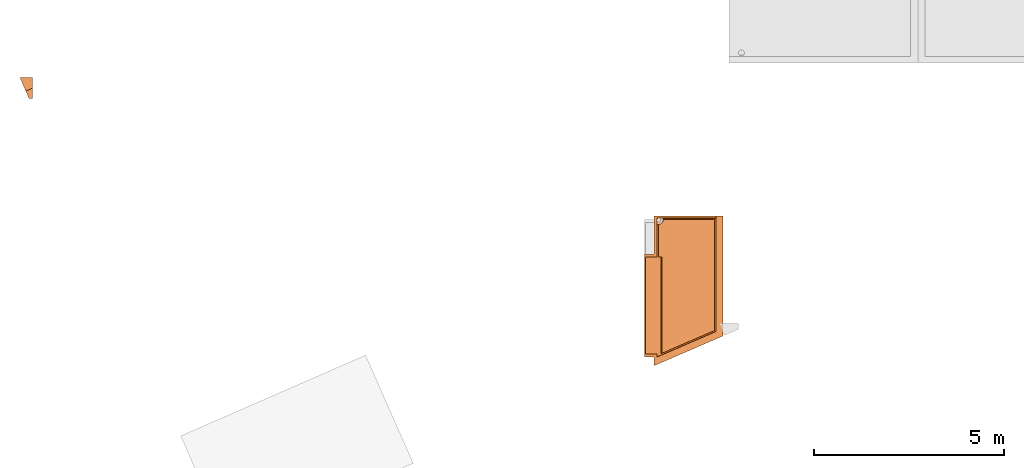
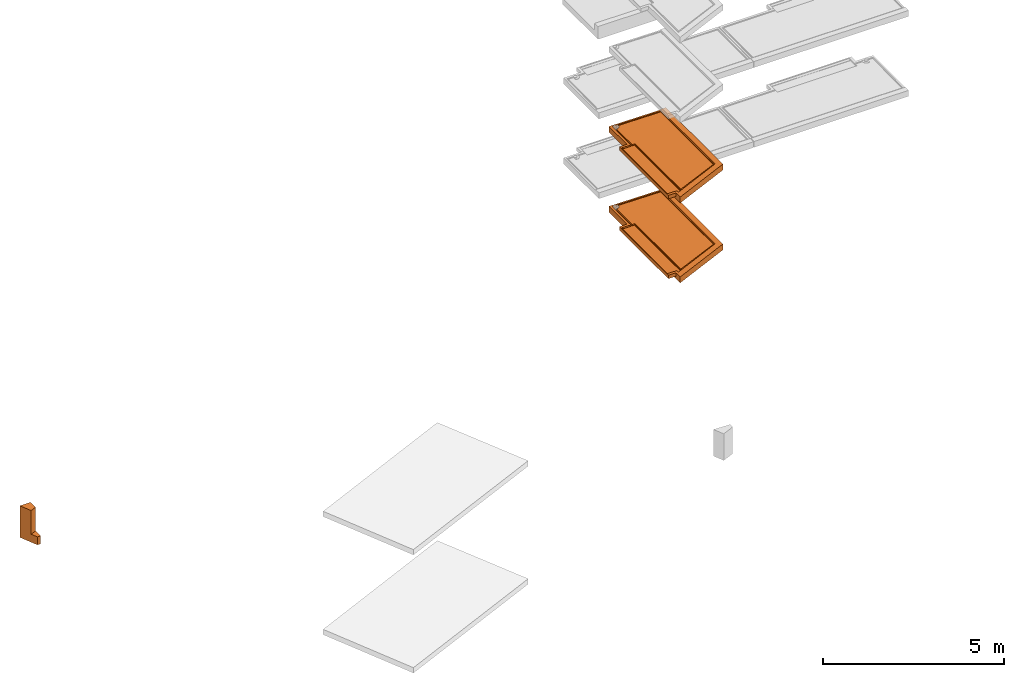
# One storey, part 4 of 31: 3 proxies, 2 elements without a shape of their own.
"""IFC2X3 building model written with IfcOpenShell, lengths in centimetres."""

import ifcopenshell
import ifcopenshell.guid

model = None  # the IFC model being written
_history = None  # IfcOwnerHistory: only IFC2X3 demands one
_inside = {}  # id of a spatial element -> (the spatial element, [elements in it])
_under = {}  # id of a project, library or spatial element -> (it, [spatial elements below it])
_declared = {}  # id of a project -> (the project, [libraries it declares])
_typed = {}  # id of a type object -> (the type object, [elements of that type])
_made_of = {}  # id of a material, layer set ... -> (it, [elements and type objects made of it])


def new_model(schema):
    """Start an empty IFC model of exactly this schema.

    Asked for "IFC4X3", IfcOpenShell would pick the latest addendum, in which some entities
    have other attributes; the version numbers below select the first issue.
    IFC2X3 requires an IfcOwnerHistory on every rooted entity: one is made here for all.
    """
    global model, _history
    if schema == "IFC4X3":
        model = ifcopenshell.file(schema_version=(4, 3, 0, 0))
    else:
        model = ifcopenshell.file(schema=schema)
    _inside.clear()
    _under.clear()
    _declared.clear()
    _typed.clear()
    _made_of.clear()
    _history = None
    if model.schema == "IFC2X3":
        org = make("IfcOrganization", Name="unknown")
        user = make(
            "IfcPersonAndOrganization",
            ThePerson=make("IfcPerson", FamilyName="unknown"),
            TheOrganization=org,
        )
        app = make(
            "IfcApplication",
            ApplicationDeveloper=org,
            Version="unknown",
            ApplicationFullName="unknown",
            ApplicationIdentifier="unknown",
        )
        _history = make(
            "IfcOwnerHistory",
            OwningUser=user,
            OwningApplication=app,
            ChangeAction="ADDED",
            CreationDate=0,
        )
    return model


def make(cls, **values):
    """One entity of the class cls with the attributes given. An attribute that is None is left unset."""
    return model.create_entity(
        cls, **{name: value for name, value in values.items() if value is not None}
    )


def entity(cls, *values):
    """Any entity or typed value of the class cls, its attributes in the order of the schema. None: left unset."""
    e = model.create_entity(cls)
    for i, value in enumerate(values):
        if value is not None:
            e[i] = value
    return e


def rooted(cls, **values):
    """An entity with a GlobalId (a new one), such as an element, a storey or a relation."""
    return make(cls, GlobalId=ifcopenshell.guid.new(), OwnerHistory=_history, **values)


def si_unit(unit_type, name, prefix=None):
    """IfcSIUnit, for example si_unit("LENGTHUNIT", "METRE", prefix="MILLI")."""
    return make("IfcSIUnit", UnitType=unit_type, Prefix=prefix, Name=name)


def converted_unit(unit_type, name, factor, base, dimensions=None, offset=None):
    """IfcConversionBasedUnit, such as the inch: factor (a typed value) times the base unit."""
    return make(
        "IfcConversionBasedUnit"
        if offset is None
        else "IfcConversionBasedUnitWithOffset",
        ConversionOffset=offset,
        Dimensions=None
        if dimensions is None
        else entity("IfcDimensionalExponents", *dimensions),
        UnitType=unit_type,
        Name=name,
        ConversionFactor=make(
            "IfcMeasureWithUnit", ValueComponent=factor, UnitComponent=base
        ),
    )


def derived_unit(unit_type, elements):
    """IfcDerivedUnit: a product of units, each with its exponent."""
    return make(
        "IfcDerivedUnit",
        Elements=[
            make("IfcDerivedUnitElement", Unit=unit, Exponent=power)
            for unit, power in elements
        ],
        UnitType=unit_type,
    )


def assignment(units):
    """IfcUnitAssignment: the units of a project."""
    return None if units is None else make("IfcUnitAssignment", Units=units)


def point(xyz):
    """IfcCartesianPoint."""
    return None if xyz is None else make("IfcCartesianPoint", Coordinates=xyz)


def direction(xyz):
    """IfcDirection."""
    return None if xyz is None else make("IfcDirection", DirectionRatios=xyz)


def frame(location, z_axis=None, x_axis=None):
    """IfcAxis2Placement3D, a coordinate frame: its origin and axes. An axis left out is left unset."""
    return make(
        "IfcAxis2Placement3D",
        Location=point(location),
        Axis=direction(z_axis),
        RefDirection=direction(x_axis),
    )


def origin():
    """The frame at (0, 0, 0) with its axes left unset."""
    return frame((0.0, 0.0, 0.0))


def place(relative_to, where):
    """IfcLocalPlacement: puts the frame where relative to a parent placement (None: the world)."""
    return make(
        "IfcLocalPlacement", PlacementRelTo=relative_to, RelativePlacement=where
    )


def context(
    kind, dimensions, precision=None, world=None, true_north=None, identifier=None
):
    """IfcGeometricRepresentationContext, for example the 3D "Model" context."""
    return make(
        "IfcGeometricRepresentationContext",
        ContextIdentifier=identifier,
        ContextType=kind,
        CoordinateSpaceDimension=dimensions,
        Precision=precision,
        WorldCoordinateSystem=world,
        TrueNorth=true_north,
    )


def subcontext(parent, identifier, kind, view, scale=None):
    """IfcGeometricRepresentationSubContext, for example "Body" below "Model"."""
    return make(
        "IfcGeometricRepresentationSubContext",
        ContextIdentifier=identifier,
        ContextType=kind,
        ParentContext=parent,
        TargetScale=scale,
        TargetView=view,
    )


def project(units=None, contexts=None):
    """IfcProject with its units and contexts."""
    return rooted(
        "IfcProject",
        Name="project",
        RepresentationContexts=contexts,
        UnitsInContext=assignment(units),
    )


def spatial(cls, under=None, at=None, **own):
    """A site, building, storey or space (cls), placed at a placement, below another one or the project."""
    s = rooted(cls, ObjectPlacement=at, **own)
    if under is not None:
        _under.setdefault(under.id(), (under, []))[1].append(s)
    return s


def faces_of(points, faces, orient=None, outer=None):
    """IfcFace entities. A face is a list of loops; a loop is a list of indices into points, from 0.

    orient and outer hold one flag for each loop. By default every Orientation is true, the
    first loop of a face is its IfcFaceOuterBound and the others are IfcFaceBound.
    """
    made = []
    for i, loops in enumerate(faces):
        bounds = []
        for j, loop in enumerate(loops):
            is_outer = j == 0 if outer is None else outer[i][j]
            bounds.append(
                make(
                    "IfcFaceOuterBound" if is_outer else "IfcFaceBound",
                    Bound=make("IfcPolyLoop", Polygon=[points[k] for k in loop]),
                    Orientation=True if orient is None else orient[i][j],
                )
            )
        made.append(make("IfcFace", Bounds=bounds))
    return made


def faceted_brep(points, faces, orient=None, outer=None, voids=None):
    """IfcFacetedBrep: a solid bounded by flat faces; with voids (closed shells), ...WithVoids."""
    shared = [point(p) for p in points]
    hull = make("IfcClosedShell", CfsFaces=faces_of(shared, faces, orient, outer))
    if voids is None:
        return make("IfcFacetedBrep", Outer=hull)
    return make(
        "IfcFacetedBrepWithVoids",
        Outer=hull,
        Voids=[
            make(cls, CfsFaces=faces_of(shared, fs, o, b)) for cls, fs, o, b in voids
        ],
    )


def shape(context_of_items, identifier, shape_type, items):
    """IfcShapeRepresentation: the items that make up one representation, for example the "Body"."""
    return make(
        "IfcShapeRepresentation",
        ContextOfItems=context_of_items,
        RepresentationIdentifier=identifier,
        RepresentationType=shape_type,
        Items=items,
    )


def source(mapping_origin, context_of_items, identifier, shape_type, items):
    """IfcRepresentationMap: a shape defined once, which mapped items show again and again."""
    return make(
        "IfcRepresentationMap",
        MappingOrigin=mapping_origin,
        MappedRepresentation=shape(context_of_items, identifier, shape_type, items),
    )


def transform(
    local_origin,
    x_axis=None,
    y_axis=None,
    z_axis=None,
    scale=None,
    scale2=None,
    scale3=None,
    uniform=True,
):
    """IfcCartesianTransformationOperator3D, or its non-uniform kind. x_axis, y_axis, z_axis: its Axis1, 2, 3."""
    if uniform:
        return make(
            "IfcCartesianTransformationOperator3D",
            Axis1=direction(x_axis),
            Axis2=direction(y_axis),
            LocalOrigin=point(local_origin),
            Scale=scale,
            Axis3=direction(z_axis),
        )
    return make(
        "IfcCartesianTransformationOperator3DnonUniform",
        Axis1=direction(x_axis),
        Axis2=direction(y_axis),
        LocalOrigin=point(local_origin),
        Scale=scale,
        Axis3=direction(z_axis),
        Scale2=scale2,
        Scale3=scale3,
    )


def mapped(mapping_source, mapping_target):
    """IfcMappedItem: shows the shape of a source again, moved by a transform."""
    return make(
        "IfcMappedItem", MappingSource=mapping_source, MappingTarget=mapping_target
    )


def material(Name=None, Category=None):
    """IfcMaterial."""
    return make("IfcMaterial", Name=Name, Category=Category)


def made_of(thing, what):
    """Note that an element or type object is made of a material, layer set ...; save() writes the relation."""
    if what is not None:
        _made_of.setdefault(what.id(), (what, []))[1].append(thing)
    return thing


def type_object(cls, material=None, **own):
    """A type object (cls), such as IfcWallType, which elements share."""
    return made_of(rooted(cls, **own), material)


def type_shapes(of_type, sources):
    """Give a type object the sources (RepresentationMaps) that its elements show as mapped items."""
    of_type.RepresentationMaps = sources


def element(
    cls,
    number,
    at=None,
    inside=None,
    cuts=None,
    type_object=None,
    material=None,
    context=None,
    identifier="Body",
    shape_type=None,
    held_by="IfcProductDefinitionShape",
    body=None,
    shapes=None,
    **own,
):
    """One element of the class cls, such as IfcWall. Its Tag is "e" and its number.

    at: its placement. inside: the storey or other place that contains it. cuts: it is an
    opening in that element (IfcRelVoidsElement). A single representation is given by context,
    identifier, shape_type and body (its items); several are given by shapes. held_by: the class
    of the entity that holds the representations. save() writes the other relations.
    """
    e = rooted(cls, Tag="e%d" % number, ObjectPlacement=at, **own)
    if body is not None:
        shapes = [shape(context, identifier, shape_type, body)]
    if shapes is not None:
        e.Representation = make(held_by, Representations=shapes)
    if inside is not None:
        _inside.setdefault(inside.id(), (inside, []))[1].append(e)
    if cuts is not None:
        rooted(
            "IfcRelVoidsElement", RelatingBuildingElement=cuts, RelatedOpeningElement=e
        )
    if type_object is not None:
        _typed.setdefault(type_object.id(), (type_object, []))[1].append(e)
    return made_of(e, material)


def aggregate(whole, parts):
    """IfcRelAggregates: a whole, such as a stair, and the parts it consists of."""
    return rooted("IfcRelAggregates", RelatingObject=whole, RelatedObjects=parts)


def save(model, path):
    """Write the relations noted so far, then the file.

    IfcRelAggregates (storeys below a building ...), IfcRelContainedInSpatialStructure (elements
    in a storey), IfcRelDefinesByType, IfcRelAssociatesMaterial and IfcRelDeclares: one each for
    every whole, place, type object, material and project.
    """
    for whole, parts in _under.values():
        aggregate(whole, parts)
    for where, things in _inside.values():
        rooted(
            "IfcRelContainedInSpatialStructure",
            RelatedElements=things,
            RelatingStructure=where,
        )
    for kind, things in _typed.values():
        rooted("IfcRelDefinesByType", RelatedObjects=things, RelatingType=kind)
    for what, things in _made_of.values():
        rooted("IfcRelAssociatesMaterial", RelatedObjects=things, RelatingMaterial=what)
    for by, libraries in _declared.values():
        rooted("IfcRelDeclares", RelatingContext=by, RelatedDefinitions=libraries)
    model.write(path)


model = new_model("IFC2X3")

# Units and contexts
model_context = context("Model", 3, precision=0.001, world=origin(), true_north=direction((6.12303176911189e-17, 1.0)))
body_context = subcontext(model_context, "Body", "Model", "MODEL_VIEW")
ifc_project = project(units=[si_unit("LENGTHUNIT", "METRE", prefix="CENTI"), si_unit("AREAUNIT", "SQUARE_METRE"), si_unit("VOLUMEUNIT", "CUBIC_METRE"), converted_unit("PLANEANGLEUNIT", "DEGREE", entity("IfcRatioMeasure", 0.0174532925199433), si_unit("PLANEANGLEUNIT", "RADIAN"), dimensions=[0, 0, 0, 0, 0, 0, 0]), si_unit("MASSUNIT", "GRAM", prefix="KILO"), derived_unit("MASSDENSITYUNIT", [(si_unit("MASSUNIT", "GRAM", prefix="KILO"), 1), (si_unit("LENGTHUNIT", "METRE"), -3)]), si_unit("TIMEUNIT", "SECOND"), si_unit("FREQUENCYUNIT", "HERTZ"), si_unit("THERMODYNAMICTEMPERATUREUNIT", "DEGREE_CELSIUS"), derived_unit("THERMALTRANSMITTANCEUNIT", [(si_unit("MASSUNIT", "GRAM", prefix="KILO"), 1), (si_unit("THERMODYNAMICTEMPERATUREUNIT", "KELVIN"), -1), (si_unit("TIMEUNIT", "SECOND"), -3)]), derived_unit("VOLUMETRICFLOWRATEUNIT", [(si_unit("LENGTHUNIT", "METRE"), 3), (si_unit("TIMEUNIT", "SECOND"), -1)]), si_unit("ELECTRICCURRENTUNIT", "AMPERE"), si_unit("ELECTRICVOLTAGEUNIT", "VOLT"), si_unit("POWERUNIT", "WATT"), si_unit("FORCEUNIT", "NEWTON"), si_unit("ILLUMINANCEUNIT", "LUX"), si_unit("LUMINOUSFLUXUNIT", "LUMEN"), si_unit("LUMINOUSINTENSITYUNIT", "CANDELA"), derived_unit("USERDEFINED", [(si_unit("MASSUNIT", "GRAM", prefix="KILO"), -1), (si_unit("LENGTHUNIT", "METRE"), -2), (si_unit("TIMEUNIT", "SECOND"), 3), (si_unit("LUMINOUSFLUXUNIT", "LUMEN"), 1)]), derived_unit("LINEARVELOCITYUNIT", [(si_unit("LENGTHUNIT", "METRE"), 1), (si_unit("TIMEUNIT", "SECOND"), -1)]), si_unit("PRESSUREUNIT", "PASCAL"), derived_unit("USERDEFINED", [(si_unit("LENGTHUNIT", "METRE"), -2), (si_unit("MASSUNIT", "GRAM", prefix="KILO"), 1), (si_unit("TIMEUNIT", "SECOND"), -2)])], contexts=[model_context])

# Site, building, storey
site_placement = place(None, origin())
site = spatial("IfcSite", under=ifc_project, at=site_placement, Name="Default", CompositionType="ELEMENT")
building_placement = place(site_placement, origin())
building = spatial("IfcBuilding", under=site, at=building_placement, Name="CAGE 03", CompositionType="ELEMENT")
storey_placement = place(building_placement, frame((0.0, 0.0, -400.0)))
storey = spatial("IfcBuildingStorey", under=building, at=storey_placement, Name="±0.00", CompositionType="ELEMENT", Elevation=-400.0)

# Proxy
ifc_material_1 = material(Name="Béton, C25/30")
building_element_proxy_type_1 = type_object("IfcBuildingElementProxyType", Name="Lg34C", PredefinedType="NOTDEFINED", material=ifc_material_1)
shared_shape_1 = source(origin(), body_context, "Body", "Brep", [
    faceted_brep([(33.6040107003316, 55.0, 107.0), (19.6127002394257, 55.0, 107.0), (0.0, 55.0, 107.0), (15.3352663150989, 19.5578755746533, 107.0), (31.8551741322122, 26.7057875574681, 107.0), (33.6040107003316, 27.462482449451, 107.0), (0.0, 55.0, 0.0), (33.6040107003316, 55.0, 0.0), (33.6040107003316, 0.0, 0.0), (23.7976605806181, 0.0, 0.0), (23.7976605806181, 0.0, 27.0), (15.3352663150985, 19.5578755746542, 27.0), (0.0, 55.0, 27.0), (33.6040107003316, 0.0, 27.0), (33.6040107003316, 55.0, 27.0), (33.6040107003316, 55.0, 87.0), (33.6040107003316, 27.4624824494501, 87.0), (33.6040107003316, 27.4624824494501, 27.0)], [[[0, 1, 2, 3, 4, 5]], [[6, 7, 8, 9]], [[6, 9, 10, 11, 3, 2, 12]], [[9, 8, 13, 10]], [[8, 7, 14, 15, 0, 5, 16, 17, 13]], [[2, 1, 0, 15, 14, 7, 6, 12]], [[17, 11, 10, 13]], [[11, 17, 16, 5, 4, 3]]]),
])
type_shapes(building_element_proxy_type_1, [shared_shape_1])
proxy_1_placement = place(storey_placement, frame((3006.74025360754, 4381.66066607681, 254.0)))
element("IfcBuildingElementProxy", 1, at=proxy_1_placement, inside=storey, type_object=building_element_proxy_type_1, material=ifc_material_1, Name="Lg34C:Lg34C", ObjectType="Lg34C", context=body_context, shape_type="MappedRepresentation", body=[
    mapped(shared_shape_1, transform((0.0, 0.0, 0.0), scale=1.0)),
])

# Assembly, proxy
assembly_1_placement = place(storey_placement, origin())
assembly_1 = element("IfcElementAssembly", 2, at=assembly_1_placement, inside=storey, Name="Assemblage Modèles génériques:BALCON TYPE 06", ObjectType="Assemblage Modèles génériques:BALCON TYPE 06", AssemblyPlace="NOTDEFINED", PredefinedType="USERDEFINED")
ifc_material_2 = material(Name="Béton, panneaux préfa 30/37")
building_element_proxy_type_2 = type_object("IfcBuildingElementProxyType", Name="balcon préfa type 06", PredefinedType="NOTDEFINED", material=ifc_material_2)
shared_shape_2 = source(origin(), body_context, "Body", "Brep", [
    faceted_brep([(2.0, 31.6000000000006, 20.0), (2.0, 31.6000000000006, 17.4999999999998), (2.0, 286.600000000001, 17.4999999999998), (2.0, 286.600000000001, 20.0), (0.0, 23.6000000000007, 8.0), (0.0, 23.6000000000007, 20.0), (0.0, 294.600000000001, 20.0), (0.0, 294.600000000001, 8.0), (8.0, 23.6000000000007, 8.0), (8.0, 294.600000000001, 8.0), (24.0, 294.600000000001, 8.0), (24.0, 23.6000000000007, 8.0), (24.0, 0.0, 0.0), (24.0, 3.26884759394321, 0.0), (26.0, 4.13432487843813, 0.0), (203.0, 80.7290645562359, 0.0), (203.0, 391.6, 0.0), (26.0, 391.6, 0.0), (24.0, 391.6, 0.0), (24.0, 394.6, 0.0), (26.0, 394.6, 0.0), (206.0, 394.6, 0.0), (206.0, 78.7584328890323, 0.0), (26.0, 0.865477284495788, 0.0), (26.0, 5.22394074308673, 0.0), (34.5000000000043, 380.269872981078, 0.0), (35.7059047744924, 379.770370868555, 0.0), (24.0, 4.35846345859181, 0.0), (37.0, 379.6, 0.0), (202.0, 81.3859417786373, 0.0), (33.4644660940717, 381.064466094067, 0.0), (24.0, 390.6, 0.0), (32.6698729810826, 382.100000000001, 0.0), (32.1703708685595, 383.305904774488, 0.0), (32.0, 384.6, 0.0), (26.0, 390.6, 0.0), (32.1703708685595, 385.894095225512, 0.0), (32.6698729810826, 387.1, 0.0), (33.4644660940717, 388.135533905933, 0.0), (34.5000000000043, 388.930127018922, 0.0), (35.7059047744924, 389.429629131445, 0.0), (37.0, 389.6, 0.0), (202.0, 390.6, 0.0), (39.500000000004, 380.269872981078, 0.0), (40.5355339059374, 381.064466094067, 0.0), (41.3301270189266, 382.1, 0.0), (41.8296291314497, 383.305904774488, 0.0), (42.0, 384.6, 0.0), (38.2940952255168, 389.429629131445, 0.0), (39.500000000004, 388.930127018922, 0.0), (40.5355339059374, 388.135533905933, 0.0), (41.3301270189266, 387.1, 0.0), (41.8296291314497, 385.894095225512, 0.0), (38.2940952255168, 379.770370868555, 0.0), (206.0, 78.7584328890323, 20.0), (206.0, 394.6, 20.0), (188.0, 394.6, 20.0), (187.822534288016, 394.6, 17.9715576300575), (187.822534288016, 389.422534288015, 17.9715576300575), (187.562556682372, 389.162556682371, 15.0), (187.562556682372, 90.8695694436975, 15.0), (188.0, 90.5822228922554, 20.0), (24.0, 31.6000000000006, 20.0), (24.0, 31.6000000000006, 19.6099582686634), (32.0411600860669, 31.6000000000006, 19.5295380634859), (32.4374433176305, 31.6000000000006, 15.0), (9.0, 31.6000000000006, 15.0), (9.0, 31.6000000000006, 15.9713250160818), (44.9990594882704, 33.0586535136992, 16.8998201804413), (45.0240609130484, 33.0694725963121, 19.3996951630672), (45.0240609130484, 286.600000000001, 19.3996951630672), (44.9990594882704, 286.600000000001, 16.8998201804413), (43.0, 32.1935832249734, 16.9198129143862), (43.0, 286.600000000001, 16.9198129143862), (24.0, 394.6, 19.6099582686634), (26.0, 394.6, 19.5899561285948), (32.4374433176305, 23.7409385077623, 15.0), (32.0411600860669, 23.1376549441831, 19.5295380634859), (26.0, 20.517651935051, 19.5899561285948), (24.0, 19.65026786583, 19.6099582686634), (24.0, 19.6130855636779, 20.0), (26.0, 20.4785628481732, 20.0), (184.0, 93.2097317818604, 15.0), (184.0, 385.6, 15.0), (184.0, 385.6, 18.0097870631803), (184.0, 93.2097317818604, 18.0097870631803), (203.0, 80.7290645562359, 1.0), (203.0, 391.6, 1.0), (43.0, 32.1935832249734, 15.0), (43.0, 286.600000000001, 15.0), (48.4564392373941, 385.6, 15.0), (48.456439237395, 385.6, 19.3653677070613), (34.954742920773, 389.162556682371, 15.0), (35.2874144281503, 389.297557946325, 16.5430715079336), (35.6289157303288, 389.408339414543, 17.8093094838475), (35.9774861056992, 389.494329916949, 18.7921854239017), (36.331328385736, 389.555086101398, 19.4866317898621), (32.0411600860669, 389.558839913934, 19.5295380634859), (32.4374433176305, 389.162556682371, 15.0), (47.3823337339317, 389.545416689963, 19.3761099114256), (47.4045028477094, 389.497757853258, 18.8313669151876), (47.4266719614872, 389.450099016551, 18.2866239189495), (47.4710101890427, 389.35478134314, 17.1971379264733), (47.5561866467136, 389.162556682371, 15.0), (36.0, 373.14356076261, 19.4899454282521), (36.0, 373.14356076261, 15.0), (36.0, 286.600000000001, 15.0), (36.0, 286.600000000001, 19.4899454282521), (32.4374433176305, 374.043813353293, 15.0), (32.3379459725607, 374.08794000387, 16.13725985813), (32.2384486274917, 374.132066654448, 17.2745197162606), (32.1398043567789, 374.178068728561, 18.4020288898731), (32.0904822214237, 374.201069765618, 18.9657834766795), (32.0658211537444, 374.212570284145, 19.2476607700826), (32.0411600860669, 374.224070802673, 19.5295380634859), (32.0411600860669, 286.600000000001, 19.5295380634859), (32.4374433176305, 286.600000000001, 15.0), (32.041160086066, 385.240239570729, 19.5295380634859), (32.1013167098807, 385.601449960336, 18.8419447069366), (32.1877482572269, 385.957288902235, 17.8540276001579), (32.2999911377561, 386.305847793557, 16.571085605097), (32.4374433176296, 386.645257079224, 15.0), (9.0, 286.600000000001, 15.9713250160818), (24.0, 0.0, 20.0), (26.0, 0.865477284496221, 20.0), (24.0, 23.6000000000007, 20.0), (24.0, 286.600000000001, 20.0), (24.0, 294.600000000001, 20.0), (8.0, 294.600000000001, 20.0), (8.0, 23.6000000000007, 20.0), (24.0, 23.6000000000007, 19.6099582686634), (24.0, 294.600000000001, 19.6099582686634), (24.0, 391.6, 1.0), (24.0, 390.6, 1.46630765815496), (24.0, 4.35846345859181, 1.46630765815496), (24.0, 3.26884759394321, 1.0), (48.3490385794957, 382.742764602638, 19.3664418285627), (47.5400717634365, 380.000338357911, 19.3745323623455), (46.0795468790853, 377.542250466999, 19.3891391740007), (44.057749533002, 375.520453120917, 19.409359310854), (41.5996616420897, 374.059928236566, 19.4339428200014), (38.8572353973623, 373.250961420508, 19.4613700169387), (24.0, 286.600000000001, 19.6099582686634), (32.0205702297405, 374.23393617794, 19.5297439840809), (32.0, 374.243842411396, 19.5299497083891), (32.0, 384.6, 19.5299497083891), (32.0103006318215, 384.920780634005, 19.529846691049), (36.6649108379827, 389.588758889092, 19.483295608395), (37.0, 389.599999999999, 19.4799443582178), (47.3561575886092, 389.599999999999, 19.3763717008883), (47.3692815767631, 389.572725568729, 19.3762404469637), (9.0, 286.600000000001, 15.0), (202.0, 81.3859417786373, 1.46630765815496), (202.0, 390.6, 1.46630765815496), (34.1825325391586, 373.450476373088, 15.0), (48.1495236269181, 387.417467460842, 15.0), (33.0625490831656, 387.6816359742, 15.0), (33.9183640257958, 388.537450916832, 15.0), (26.0, 4.13432487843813, 1.0), (26.0, 5.22394074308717, 1.46630765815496), (26.0, 391.6, 1.0), (26.0, 390.6, 1.46630765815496), (34.6842282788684, 373.335578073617, 7.69999999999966), (37.509066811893, 373.111272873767, 7.69999999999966), (40.3029955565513, 373.5845462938, 7.69999999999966), (42.896371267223, 374.726661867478, 7.69999999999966), (45.1317279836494, 376.468272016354, 7.69999999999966), (46.8733381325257, 378.70362873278, 7.69999999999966), (48.0154537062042, 381.297004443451, 7.69999999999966), (48.4887271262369, 384.090933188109, 7.69999999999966), (48.264421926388, 386.915771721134, 7.69999999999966), (47.3561575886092, 389.599999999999, 7.69999999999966), (37.0, 389.599999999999, 7.69999999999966), (38.2940952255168, 389.429629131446, 7.69999999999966), (39.500000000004, 388.930127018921, 7.69999999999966), (40.5355339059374, 388.135533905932, 7.69999999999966), (41.3301270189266, 387.1, 7.69999999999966), (41.8296291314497, 385.894095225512, 7.69999999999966), (42.0, 384.6, 7.69999999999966), (41.8296291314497, 383.305904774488, 7.69999999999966), (41.3301270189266, 382.100000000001, 7.69999999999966), (40.5355339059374, 381.064466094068, 7.69999999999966), (39.500000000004, 380.269872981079, 7.69999999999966), (38.2940952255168, 379.770370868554, 7.69999999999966), (37.0, 379.600000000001, 7.69999999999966), (35.7059047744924, 379.770370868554, 7.69999999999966), (34.5000000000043, 380.269872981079, 7.69999999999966), (33.4644660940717, 381.064466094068, 7.69999999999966), (32.6698729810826, 382.100000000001, 7.69999999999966), (32.1703708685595, 383.305904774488, 7.69999999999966), (32.0, 384.599999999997, 7.69999999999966), (32.0, 374.243842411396, 7.69999999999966), (32.0, 374.243842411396, 19.1602618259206), (32.0, 374.243842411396, 18.790580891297), (32.0, 374.243842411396, 18.0512051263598), (32.0, 374.243842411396, 16.5724674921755), (32.0, 374.243842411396, 15.0937229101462), (32.0, 374.243842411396, 13.6149783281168), (47.3561575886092, 389.599999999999, 18.6465984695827), (47.3561575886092, 389.599999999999, 17.9168252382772), (47.3561575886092, 389.599999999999, 13.538185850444), (47.3561575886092, 389.599999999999, 16.457278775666), (47.3561575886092, 389.599999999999, 14.997732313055)], [[[0, 1, 2, 3]], [[4, 5, 6, 7]], [[8, 4, 7, 9, 10, 11]], [[12, 13, 14, 15, 16, 17, 18, 19, 20, 21, 22, 23]], [[12, 13, 23]], [[23, 13, 14]], [[15, 23, 14]], [[15, 22, 23]], [[22, 15, 16]], [[16, 21, 22]], [[16, 20, 21]], [[17, 20, 16]], [[18, 20, 17]], [[18, 19, 20]], [[24, 25, 26]], [[25, 24, 27]], [[24, 26, 28]], [[28, 29, 24]], [[30, 25, 27]], [[31, 30, 27]], [[31, 32, 30]], [[31, 33, 32]], [[34, 33, 31]], [[35, 34, 31]], [[36, 34, 35]], [[37, 36, 35]], [[35, 38, 37]], [[39, 38, 35]], [[35, 40, 39]], [[41, 40, 35]], [[41, 35, 42]], [[42, 29, 43]], [[42, 43, 44]], [[42, 44, 45]], [[42, 45, 46]], [[42, 46, 47]], [[42, 48, 41]], [[48, 42, 49]], [[50, 49, 42]], [[50, 42, 51]], [[52, 51, 42]], [[42, 47, 52]], [[28, 53, 29]], [[43, 29, 53]], [[54, 22, 21, 55]], [[56, 57, 58, 59, 60, 61]], [[1, 0, 62, 63, 64, 65, 66, 67]], [[68, 69, 70, 71]], [[72, 68, 71, 73]], [[20, 19, 74, 75, 57, 56, 55, 21]], [[60, 76, 77, 78, 79, 80, 81, 61]], [[82, 83, 84, 85]], [[86, 87, 16, 15]], [[88, 72, 73, 89]], [[84, 83, 90, 91]], [[92, 93, 94, 95, 96, 97, 98]], [[59, 58, 99, 100, 101, 102, 103]], [[104, 105, 106, 107]], [[108, 109, 110, 111, 112, 113, 114, 115, 116]], [[64, 77, 76, 65]], [[97, 117, 118, 119, 120, 121, 98]], [[1, 67, 122, 2]], [[56, 61, 81, 80, 123, 124, 54, 55]], [[125, 62, 0, 3, 126, 127, 128, 6, 5, 129]], [[123, 80, 79, 130, 11, 10, 131, 74, 19, 18, 132, 133, 31, 27, 134, 135, 13, 12]], [[78, 77, 64, 63, 130, 79]], [[69, 85, 84, 91, 136, 137, 138, 139, 140, 141, 104, 107, 70]], [[131, 142, 115, 114, 143, 144, 145, 146, 117, 97, 96, 147, 148, 149, 150, 99, 58, 57, 75, 74]], [[122, 151, 116, 115, 142, 126, 3, 2]], [[107, 106, 89, 73, 71, 70]], [[152, 29, 42, 153]], [[86, 152, 153, 87]], [[67, 66, 151, 122]], [[88, 89, 106, 105, 154, 108, 116, 151, 66, 65, 76, 60, 59, 103, 155, 90, 83, 82]], [[121, 156, 157, 92, 98]], [[15, 14, 13, 135, 158, 86]], [[159, 134, 27, 24, 29, 152]], [[152, 86, 158, 135, 134, 159]], [[22, 54, 124, 123, 12, 23]], [[127, 126, 142, 131]], [[62, 125, 130, 63]], [[18, 17, 16, 87, 160, 132]], [[161, 153, 42, 35, 31, 133]], [[160, 87, 153, 161, 133, 132]], [[128, 127, 131, 10, 9, 7, 6]], [[129, 5, 4, 8, 11, 130, 125]], [[69, 68, 72, 88, 82, 85]], [[162, 163, 164, 165, 166, 167, 168, 169, 170, 171, 172, 173, 174, 175, 176, 177, 178, 179, 180, 181, 182, 183, 184, 185, 186, 187, 188, 189, 190, 191]], [[190, 145, 144, 192, 193, 194, 195, 196, 197, 191]], [[154, 162, 191]], [[111, 110, 194]], [[154, 197, 108]], [[154, 105, 162]], [[109, 195, 110]], [[164, 163, 141]], [[163, 105, 141]], [[162, 105, 163]], [[140, 165, 164]], [[198, 199, 101]], [[149, 198, 100]], [[193, 192, 112]], [[193, 111, 194]], [[197, 154, 191]], [[112, 111, 193]], [[140, 164, 141]], [[113, 112, 192]], [[143, 114, 113]], [[141, 105, 104]], [[140, 139, 165]], [[113, 192, 143]], [[139, 166, 165]], [[167, 137, 168]], [[166, 138, 167]], [[169, 168, 136]], [[170, 200, 171]], [[195, 194, 110]], [[170, 90, 155]], [[200, 170, 155]], [[169, 90, 170]], [[136, 90, 169]], [[108, 196, 109]], [[91, 90, 136]], [[100, 150, 149]], [[137, 167, 138]], [[102, 201, 103]], [[136, 168, 137]], [[103, 201, 202, 200]], [[155, 103, 200]], [[199, 201, 102]], [[199, 102, 101]], [[101, 100, 198]], [[100, 99, 150]], [[144, 143, 192]], [[108, 197, 196]], [[195, 109, 196]], [[139, 138, 166]], [[172, 171, 200, 202, 201, 199, 198, 149, 148]], [[32, 33, 189, 188]], [[32, 188, 187, 30]], [[26, 25, 186, 185]], [[187, 186, 25, 30]], [[28, 26, 185, 184]], [[34, 190, 189, 33]], [[43, 53, 183, 182]], [[43, 182, 181, 44]], [[46, 45, 180, 179]], [[181, 180, 45, 44]], [[47, 46, 179, 178]], [[184, 183, 53, 28]], [[52, 177, 176, 51]], [[47, 178, 177, 52]], [[48, 49, 174, 173]], [[50, 51, 176, 175]], [[50, 175, 174, 49]], [[173, 172, 41, 48]], [[96, 95, 172]], [[172, 95, 40]], [[148, 147, 172]], [[96, 172, 147]], [[40, 41, 172]], [[92, 39, 40]], [[39, 92, 157]], [[157, 38, 39]], [[93, 92, 40]], [[190, 34, 36]], [[37, 38, 156]], [[37, 121, 36]], [[157, 156, 38]], [[36, 118, 190]], [[37, 156, 121]], [[40, 94, 93]], [[121, 120, 36]], [[118, 36, 119]], [[118, 117, 190]], [[119, 36, 120]], [[117, 146, 190]], [[190, 146, 145]], [[95, 94, 40]]]),
])
type_shapes(building_element_proxy_type_2, [shared_shape_2])
proxy_2_placement = place(assembly_1_placement, frame((4654.36582014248, 3676.56066607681, 990.0)))
proxy_2 = element("IfcBuildingElementProxy", 3, at=proxy_2_placement, type_object=building_element_proxy_type_2, material=ifc_material_2, Name="BY_STR_Balcon_préfa_06:balcon préfa type 06", ObjectType="balcon préfa type 06", context=body_context, shape_type="MappedRepresentation", body=[
    mapped(shared_shape_2, transform((0.0, 0.0, 0.0), scale=1.0)),
])
aggregate(assembly_1, [proxy_2])

assembly_2_placement = place(storey_placement, origin())
assembly_2 = element("IfcElementAssembly", 4, at=assembly_2_placement, inside=storey, Name="Assemblage Modèles génériques:BALCON TYPE 06", ObjectType="Assemblage Modèles génériques:BALCON TYPE 06", AssemblyPlace="NOTDEFINED", PredefinedType="USERDEFINED")
building_element_proxy_type_3 = type_object("IfcBuildingElementProxyType", Name="balcon préfa type 06", PredefinedType="NOTDEFINED", material=ifc_material_2)
shared_shape_3 = source(origin(), body_context, "Body", "Brep", [
    faceted_brep([(2.0, 31.6000000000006, 20.0), (2.0, 31.6000000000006, 17.4999999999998), (2.0, 286.600000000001, 17.4999999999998), (2.0, 286.600000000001, 20.0), (0.0, 23.6000000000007, 8.0), (0.0, 23.6000000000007, 20.0), (0.0, 294.600000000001, 20.0), (0.0, 294.600000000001, 8.0), (8.0, 23.6000000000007, 8.0), (8.0, 294.600000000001, 8.0), (24.0, 294.600000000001, 8.0), (24.0, 23.6000000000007, 8.0), (24.0, 0.0, 0.0), (24.0, 3.26884759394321, 0.0), (203.0, 80.7290645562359, 0.0), (203.0, 391.6, 0.0), (26.0, 391.6, 0.0), (24.0, 391.6, 0.0), (24.0, 394.6, 0.0), (26.0, 394.6, 0.0), (206.0, 394.6, 0.0), (206.0, 78.7584328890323, 0.0), (202.0, 81.3859417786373, 0.0), (24.0, 4.35846345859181, 0.0), (24.0, 19.5946922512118, 0.0), (38.2940952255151, 379.770370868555, 0.0), (39.5000000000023, 380.269872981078, 0.0), (202.0, 390.6, 0.0), (37.0, 379.6, 0.0), (35.7059047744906, 379.770370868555, 0.0), (34.5000000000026, 380.269872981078, 0.0), (33.46446609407, 381.064466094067, 0.0), (24.0, 390.6, 0.0), (32.6698729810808, 382.100000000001, 0.0), (32.1703708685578, 383.305904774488, 0.0), (32.0, 384.6, 0.0), (26.0, 390.6, 0.0), (32.1703708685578, 385.894095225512, 0.0), (32.6698729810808, 387.1, 0.0), (33.46446609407, 388.135533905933, 0.0), (34.5000000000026, 388.930127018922, 0.0), (35.7059047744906, 389.429629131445, 0.0), (37.0, 389.6, 0.0), (40.5355339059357, 381.064466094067, 0.0), (41.3301270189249, 382.1, 0.0), (41.8296291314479, 383.305904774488, 0.0), (42.0, 384.6, 0.0), (38.2940952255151, 389.429629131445, 0.0), (39.5000000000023, 388.930127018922, 0.0), (40.5355339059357, 388.135533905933, 0.0), (41.3301270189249, 387.1, 0.0), (41.8296291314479, 385.894095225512, 0.0), (206.0, 78.7584328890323, 20.0), (206.0, 394.6, 20.0), (188.0, 394.6, 20.0), (187.822534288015, 394.6, 17.9715576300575), (187.822534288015, 389.422534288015, 17.9715576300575), (187.562556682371, 389.162556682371, 15.0), (187.562556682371, 90.8695694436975, 15.0), (188.0, 90.5822228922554, 20.0), (24.0, 31.6000000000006, 20.0), (24.0, 31.6000000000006, 19.6099582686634), (32.041160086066, 31.6000000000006, 19.5295380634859), (32.4374433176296, 31.6000000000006, 15.0), (9.0, 31.6000000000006, 15.0), (9.0, 31.6000000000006, 15.9713250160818), (44.9990594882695, 33.0586535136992, 16.8998201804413), (45.0240609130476, 33.0694725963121, 19.3996951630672), (45.0240609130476, 286.600000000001, 19.3996951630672), (44.9990594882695, 286.600000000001, 16.8998201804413), (43.0, 32.1935832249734, 16.9198129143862), (43.0, 286.600000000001, 16.9198129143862), (24.0, 394.6, 19.6099582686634), (26.0, 394.6, 19.5899561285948), (32.4374433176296, 23.7409385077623, 15.0), (32.041160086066, 23.1376549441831, 19.5295380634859), (26.0, 20.5176519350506, 19.5899561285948), (24.0, 19.65026786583, 19.6099582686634), (24.0, 19.6130855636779, 20.0), (26.0, 20.4785628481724, 20.0), (184.0, 93.2097317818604, 15.0), (184.0, 385.6, 15.0), (184.0, 385.6, 18.0097870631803), (184.0, 93.2097317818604, 18.0097870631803), (203.0, 80.7290645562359, 1.0), (203.0, 391.6, 1.0), (43.0, 32.1935832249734, 15.0), (43.0, 286.600000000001, 15.0), (48.4564392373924, 385.6, 15.0), (48.4564392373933, 385.6, 19.3653677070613), (34.9547429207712, 389.162556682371, 15.0), (35.2874144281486, 389.297557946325, 16.5430715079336), (35.628915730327, 389.408339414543, 17.8093094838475), (35.9774861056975, 389.494329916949, 18.7921854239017), (36.3313283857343, 389.555086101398, 19.4866317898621), (32.041160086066, 389.558839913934, 19.5295380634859), (32.4374433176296, 389.162556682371, 15.0), (47.3823337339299, 389.545416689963, 19.3761099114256), (47.4045028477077, 389.497757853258, 18.8313669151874), (47.4266719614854, 389.450099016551, 18.2866239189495), (47.4710101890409, 389.35478134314, 17.1971379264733), (47.5561866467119, 389.162556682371, 15.0), (36.0, 373.14356076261, 19.4899454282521), (36.0, 373.14356076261, 15.0), (36.0, 286.600000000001, 15.0), (36.0, 286.600000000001, 19.4899454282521), (32.4374433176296, 374.043813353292, 15.0), (32.3379459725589, 374.08794000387, 16.1372598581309), (32.2384486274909, 374.132066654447, 17.2745197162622), (32.1398043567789, 374.17806872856, 18.4020288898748), (32.090482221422, 374.201069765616, 18.9657834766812), (32.0658211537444, 374.212570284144, 19.2476607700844), (32.041160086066, 374.224070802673, 19.5295380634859), (32.041160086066, 286.600000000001, 19.5295380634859), (32.4374433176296, 286.600000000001, 15.0), (32.0411600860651, 385.240239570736, 19.5295380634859), (32.1013167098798, 385.601449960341, 18.8419447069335), (32.187748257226, 385.957288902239, 17.854027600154), (32.2999911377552, 386.30584779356, 16.5710856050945), (32.4374433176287, 386.645257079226, 15.0), (9.0, 286.600000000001, 15.9713250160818), (24.0, 19.5946922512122, 20.0), (24.0, 0.0, 20.0), (24.0, 23.6000000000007, 20.0), (24.0, 286.600000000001, 20.0), (24.0, 294.600000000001, 20.0), (8.0, 294.600000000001, 20.0), (8.0, 23.6000000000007, 20.0), (24.0, 23.6000000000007, 19.6099582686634), (24.0, 294.600000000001, 19.6099582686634), (24.0, 391.6, 1.0), (24.0, 390.6, 1.46630765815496), (24.0, 4.35846345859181, 1.46630765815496), (24.0, 3.26884759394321, 1.0), (48.349038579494, 382.742764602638, 19.3664418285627), (47.5400717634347, 380.000338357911, 19.3745323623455), (46.0795468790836, 377.542250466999, 19.3891391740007), (44.0577495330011, 375.520453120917, 19.409359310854), (41.5996616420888, 374.059928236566, 19.4339428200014), (38.8572353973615, 373.250961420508, 19.4613700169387), (24.0, 286.600000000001, 19.6099582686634), (32.0205702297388, 374.23393617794, 19.5297439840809), (32.0, 374.243842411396, 19.5299497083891), (32.0, 384.6, 19.5299497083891), (32.0103006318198, 384.920780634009, 19.529846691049), (36.6649108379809, 389.588758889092, 19.483295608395), (37.0, 389.599999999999, 19.4799443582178), (47.3561575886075, 389.599999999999, 19.3763717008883), (47.3692815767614, 389.572725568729, 19.3762404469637), (9.0, 286.600000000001, 15.0), (202.0, 81.3859417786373, 1.46630765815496), (202.0, 390.6, 1.46630765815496), (34.1825325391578, 373.450476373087, 15.0), (48.1495236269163, 387.417467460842, 15.0), (33.0625490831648, 387.681635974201, 15.0), (33.9183640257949, 388.537450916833, 15.0), (26.0, 391.6, 1.0), (26.0, 390.6, 1.46630765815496), (34.6842282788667, 373.335578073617, 7.69999999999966), (37.5090668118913, 373.111272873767, 7.69999999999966), (40.3029955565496, 373.5845462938, 7.69999999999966), (42.8963712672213, 374.726661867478, 7.69999999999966), (45.1317279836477, 376.468272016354, 7.69999999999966), (46.873338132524, 378.70362873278, 7.69999999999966), (48.0154537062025, 381.297004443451, 7.69999999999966), (48.4887271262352, 384.090933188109, 7.69999999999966), (48.2644219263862, 386.915771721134, 7.69999999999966), (47.3561575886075, 389.599999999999, 7.69999999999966), (37.0, 389.599999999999, 7.69999999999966), (38.2940952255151, 389.429629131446, 7.69999999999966), (39.5000000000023, 388.930127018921, 7.69999999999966), (40.5355339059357, 388.135533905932, 7.69999999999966), (41.3301270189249, 387.1, 7.69999999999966), (41.8296291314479, 385.894095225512, 7.69999999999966), (42.0, 384.6, 7.69999999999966), (41.8296291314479, 383.305904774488, 7.69999999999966), (41.3301270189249, 382.100000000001, 7.69999999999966), (40.5355339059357, 381.064466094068, 7.69999999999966), (39.5000000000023, 380.269872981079, 7.69999999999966), (38.2940952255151, 379.770370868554, 7.69999999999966), (37.0, 379.600000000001, 7.69999999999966), (35.7059047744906, 379.770370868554, 7.69999999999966), (34.5000000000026, 380.269872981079, 7.69999999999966), (33.46446609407, 381.064466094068, 7.69999999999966), (32.6698729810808, 382.100000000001, 7.69999999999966), (32.1703708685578, 383.305904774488, 7.69999999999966), (32.0, 384.599999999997, 7.69999999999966), (32.0, 374.243842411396, 7.69999999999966), (32.0, 374.243842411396, 19.1602618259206), (32.0, 374.243842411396, 18.790580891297), (32.0, 374.243842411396, 18.0512051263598), (32.0, 374.243842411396, 16.5724674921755), (32.0, 374.243842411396, 15.0937229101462), (32.0, 374.243842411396, 13.6149783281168), (47.3561575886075, 389.599999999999, 18.6465984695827), (47.3561575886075, 389.599999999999, 17.9168252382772), (47.3561575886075, 389.599999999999, 13.538185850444), (47.3561575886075, 389.599999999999, 16.4572787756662), (47.3561575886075, 389.599999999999, 14.9977323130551)], [[[0, 1, 2, 3]], [[4, 5, 6, 7]], [[8, 4, 7, 9, 10, 11]], [[12, 13, 14, 15, 16, 17, 18, 19, 20, 21]], [[12, 13, 14]], [[14, 21, 12]], [[21, 14, 15]], [[21, 15, 20]], [[19, 20, 15]], [[19, 15, 16]], [[19, 16, 17]], [[17, 18, 19]], [[22, 23, 24]], [[25, 22, 24]], [[26, 22, 25]], [[27, 22, 26]], [[25, 24, 28]], [[28, 24, 29]], [[29, 24, 30]], [[31, 30, 24]], [[32, 31, 24]], [[32, 33, 31]], [[32, 34, 33]], [[35, 34, 32]], [[36, 35, 32]], [[37, 35, 36]], [[38, 37, 36]], [[36, 39, 38]], [[40, 39, 36]], [[36, 41, 40]], [[42, 41, 36]], [[42, 36, 27]], [[27, 26, 43]], [[27, 43, 44]], [[27, 44, 45]], [[27, 45, 46]], [[27, 47, 42]], [[47, 27, 48]], [[49, 48, 27]], [[49, 27, 50]], [[51, 50, 27]], [[27, 46, 51]], [[52, 21, 20, 53]], [[54, 55, 56, 57, 58, 59]], [[1, 0, 60, 61, 62, 63, 64, 65]], [[66, 67, 68, 69]], [[70, 66, 69, 71]], [[19, 18, 72, 73, 55, 54, 53, 20]], [[58, 74, 75, 76, 77, 78, 79, 59]], [[80, 81, 82, 83]], [[84, 85, 15, 14]], [[86, 70, 71, 87]], [[82, 81, 88, 89]], [[90, 91, 92, 93, 94, 95, 96]], [[57, 56, 97, 98, 99, 100, 101]], [[102, 103, 104, 105]], [[106, 107, 108, 109, 110, 111, 112, 113, 114]], [[62, 75, 74, 63]], [[95, 115, 116, 117, 118, 119, 96]], [[1, 65, 120, 2]], [[54, 59, 79, 78, 121, 122, 52, 53]], [[123, 60, 0, 3, 124, 125, 126, 6, 5, 127]], [[122, 121, 78, 77, 128, 11, 10, 129, 72, 18, 17, 130, 131, 32, 24, 23, 132, 133, 13, 12]], [[76, 75, 62, 61, 128, 77]], [[67, 83, 82, 89, 134, 135, 136, 137, 138, 139, 102, 105, 68]], [[129, 140, 113, 112, 141, 142, 143, 144, 115, 95, 94, 145, 146, 147, 148, 97, 56, 55, 73, 72]], [[120, 149, 114, 113, 140, 124, 3, 2]], [[105, 104, 87, 71, 69, 68]], [[150, 22, 27, 151]], [[84, 150, 151, 85]], [[65, 64, 149, 120]], [[86, 87, 104, 103, 152, 106, 114, 149, 64, 63, 74, 58, 57, 101, 153, 88, 81, 80]], [[119, 154, 155, 90, 96]], [[133, 84, 14, 13]], [[132, 23, 22, 150]], [[133, 132, 150, 84]], [[21, 52, 122, 12]], [[125, 124, 140, 129]], [[60, 123, 128, 61]], [[17, 16, 15, 85, 156, 130]], [[157, 151, 27, 36, 32, 131]], [[156, 85, 151, 157, 131, 130]], [[126, 125, 129, 10, 9, 7, 6]], [[127, 5, 4, 8, 11, 128, 123]], [[67, 66, 70, 86, 80, 83]], [[158, 159, 160, 161, 162, 163, 164, 165, 166, 167, 168, 169, 170, 171, 172, 173, 174, 175, 176, 177, 178, 179, 180, 181, 182, 183, 184, 185, 186, 187]], [[186, 143, 142, 188, 189, 190, 191, 192, 193, 187]], [[152, 158, 187]], [[109, 108, 190]], [[152, 193, 106]], [[152, 103, 158]], [[107, 191, 108]], [[160, 159, 139]], [[159, 103, 139]], [[158, 103, 159]], [[138, 161, 160]], [[194, 195, 99]], [[147, 194, 98]], [[189, 188, 110]], [[189, 109, 190]], [[193, 152, 187]], [[110, 109, 189]], [[138, 160, 139]], [[111, 110, 188]], [[141, 112, 111]], [[139, 103, 102]], [[138, 137, 161]], [[111, 188, 141]], [[137, 162, 161]], [[163, 135, 164]], [[162, 136, 163]], [[165, 164, 134]], [[166, 196, 167]], [[191, 190, 108]], [[166, 88, 153]], [[196, 166, 153]], [[165, 88, 166]], [[134, 88, 165]], [[106, 192, 107]], [[89, 88, 134]], [[98, 148, 147]], [[135, 163, 136]], [[100, 197, 101]], [[134, 164, 135]], [[101, 197, 198, 196]], [[153, 101, 196]], [[195, 197, 100]], [[195, 100, 99]], [[99, 98, 194]], [[98, 97, 148]], [[142, 141, 188]], [[106, 193, 192]], [[191, 107, 192]], [[137, 136, 162]], [[168, 167, 196, 198, 197, 195, 194, 147, 146]], [[33, 34, 185, 184]], [[33, 184, 183, 31]], [[29, 30, 182, 181]], [[183, 182, 30, 31]], [[28, 29, 181, 180]], [[35, 186, 185, 34]], [[26, 25, 179, 178]], [[26, 178, 177, 43]], [[45, 44, 176, 175]], [[177, 176, 44, 43]], [[46, 45, 175, 174]], [[180, 179, 25, 28]], [[51, 173, 172, 50]], [[46, 174, 173, 51]], [[47, 48, 170, 169]], [[49, 50, 172, 171]], [[49, 171, 170, 48]], [[169, 168, 42, 47]], [[94, 93, 168]], [[168, 93, 41]], [[146, 145, 168]], [[94, 168, 145]], [[41, 42, 168]], [[90, 40, 41]], [[40, 90, 155]], [[155, 39, 40]], [[91, 90, 41]], [[186, 35, 37]], [[38, 39, 154]], [[38, 119, 37]], [[155, 154, 39]], [[37, 116, 186]], [[38, 154, 119]], [[41, 92, 91]], [[119, 118, 37]], [[116, 37, 117]], [[116, 115, 186]], [[117, 37, 118]], [[115, 144, 186]], [[186, 144, 143]], [[93, 92, 41]]]),
])
type_shapes(building_element_proxy_type_3, [shared_shape_3])
proxy_3_placement = place(assembly_2_placement, frame((4654.36582014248, 3676.56066607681, 1260.0)))
proxy_3 = element("IfcBuildingElementProxy", 5, at=proxy_3_placement, type_object=building_element_proxy_type_3, material=ifc_material_2, Name="BY_STR_Balcon_préfa_06:balcon préfa type 06", ObjectType="balcon préfa type 06", context=body_context, shape_type="MappedRepresentation", body=[
    mapped(shared_shape_3, transform((0.0, 0.0, 0.0), scale=1.0)),
])
aggregate(assembly_2, [proxy_3])

save(model, "model.ifc")
